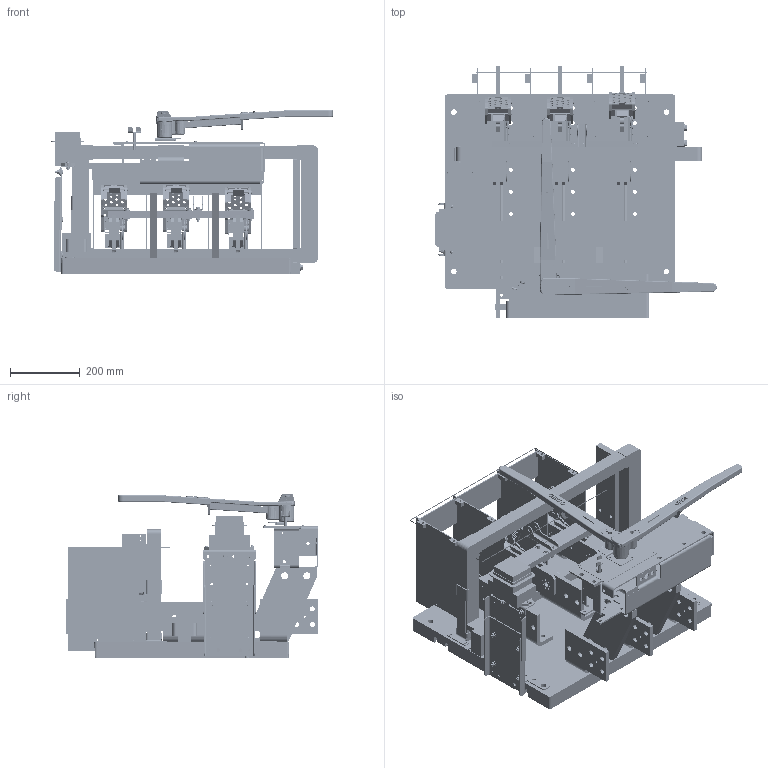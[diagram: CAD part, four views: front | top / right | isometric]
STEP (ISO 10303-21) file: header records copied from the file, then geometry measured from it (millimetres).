
FILE_DESCRIPTION(/* description */ (''),/* implementation_level */ '2;1');
FILE_NAME(/* name */ 'H:\switches\3d-templates\catalog-switches-iges-files\CATALOG-VL3610G5.stp',/* time_stamp */ '2022-03-23T14:58:58-05:00',/* author */ ('MKingston'),/* organization */ (''),/* preprocessor_version */ 'ST-DEVELOPER v18.1',/* originating_system */ 'Autodesk Inventor 2022',/* authorisation */ '');
FILE_SCHEMA (('AUTOMOTIVE_DESIGN { 1 0 10303 214 3 1 1 }'));
Products named in the file (77): catalog-VL3610; 277; 669-D; 669-C; 669-E; CATALOG-2000amp-blade-assy; 69-AL; 69-AR; 67-fc3; 69-gc3; 67-j; 69-M; ANSI/ASME B18.7 - T 0.252 x 17/32; ANSI/ASME B18.7 - T 0.188 x 17/32; 235-b; CATALOG-57-qj-arc-chute-assy; 50-QLX; 50-QRX; 363-da; 363-da_MIR; 57-QJT; 57-QJB; 57-QJS; 57-QJSB; 57-QJST; ANSI B18.6.3 - 8-32 UNC - 3; ANSI B18.2.2 - 8 - 32; ANSI B18.6.4 - No. 8 - 32 - 3/8; 230-a; 255-z; 246-a; 223-d-transparent; 255-bha; 255-c; 178-c; gfi-ring-assembly; GFS10X24; 277-ma; gfr-1-mounting-assembly; 277-L1T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
Assembly tree (173 placements, depth 4):
  catalog-VL3610
    277
    669-D  x3
    669-C  x3
    669-E  x3
    CATALOG-2000amp-blade-assy  x3
      69-AL
      69-AR
      67-fc3
      69-gc3
      67-j
      69-M
      ANSI/ASME B18.7 - T 0.252 x 17/32
      ANSI/ASME B18.7 - T 0.188 x 17/32
    235-b
    CATALOG-57-qj-arc-chute-assy  x3
      50-QLX
      50-QRX
      363-da
      363-da_MIR
      57-QJT
      57-QJB
      57-QJS
      57-QJSB
      57-QJST
      ANSI B18.6.3 - 8-32 UNC - 3
      ANSI B18.2.2 - 8 - 32
      ANSI B18.6.4 - No. 8 - 32 - 3/8
    230-a
    255-bha  x4
    255-z
    246-a  x2
    223-d-transparent
    255-c
    178-c  x8
    gfi-ring-assembly
      GFS10X24
      277-ma
    gfr-1-mounting-assembly
      277-L1T
      277-l2
      277-l3
      277-l4
      gfr-1
      Bolted Connection
        ANSI B18.22.1 - No. 10 - Type A  x4
        ASME B18.21.1 - No. 10. Carbon Steel, ETLWTB(1)  x4
        ANSI B18.6.3 - 10 - 32 x 7/8 SR HMS  x2
        ANSI B18.2.2 - 10 - 32, HMSNI  x2
      Bolted Connection_1
        ANSI B18.5 - 1/4-20 UNC - 0.75, RHBI  x6
        ASTM F436 - 1/4, CW  x6
        ASME B18.21.1 - 1/4. Carbon Steel, HITLWTB(1)  x6
        ANSI B18.2.2 - 1/4 - 20, HNI  x6
    transformer
    800-bck2
    800-fck-1
    221-kpa
    452
    481-a
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Bounding box: 807.2 x 725.27 x 469.37 mm (x, y, z)
Volume: 21039960.8 mm3; surface area: 4618538.7 mm2
Topology: 233 solids, 234 shells, 8035 faces, 20556 edges, 13330 vertices
Faces by surface type: plane 3994, cylinder 2404, cone 948, bspline 459, torus 180, sphere 50
Full cylindrical faces by diameter (mm): 1.702 x8, 3.175 x4, 3.302 x8, 3.581 x2, 3.683 x8, 3.759 x12, 3.962 x11, 4.089 x4, 4.166 x24, 4.305 x42, 4.366 x2, 4.496 x24, 4.653 x4, 4.762 x4, 4.775 x11, 4.801 x8, 4.826 x2, 4.902 x14, 4.915 x24, 4.953 x4, 4.978 x11, 5.462 x4, 5.537 x3, 5.556 x5, 5.563 x4, 5.791 x6, 6.35 x58, 6.401 x9, 6.528 x74, 6.604 x8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
Entity records: 127978 total; most frequent: CARTESIAN_POINT 31943, DIRECTION 19272, ORIENTED_EDGE 19158, EDGE_CURVE 9587, AXIS2_PLACEMENT_3D 6765, VERTEX_POINT 6206, LINE 5742, VECTOR 5742
